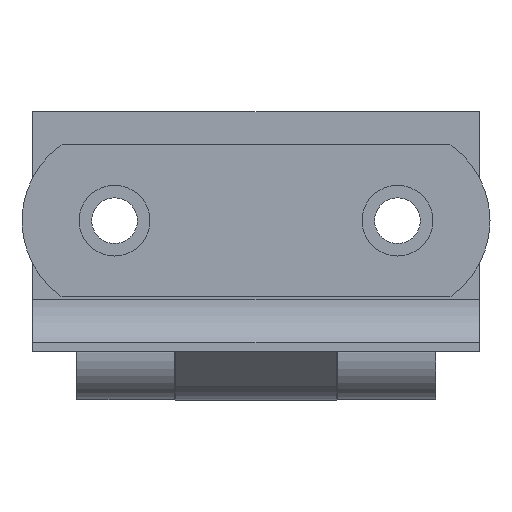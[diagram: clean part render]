
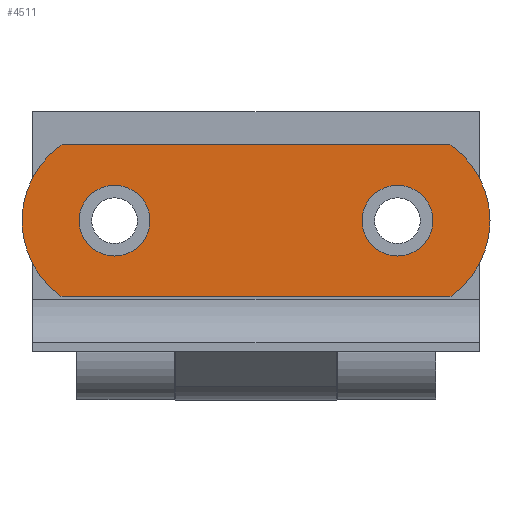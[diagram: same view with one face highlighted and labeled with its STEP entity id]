
A CAD part, left-side view. The second image highlights one B-rep face of the part: STEP entity #4511.
In plain terms, the highlighted planar face has unit normal (-1, 0, 0) as drawn and (0, 0, 1) by its records, which use the part's own axes.
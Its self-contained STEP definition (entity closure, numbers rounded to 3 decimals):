
#222 = CARTESIAN_POINT ( 'NONE',  ( 16.25, 7., 0. ) ) ;
#342 = CIRCLE ( 'NONE', #1406, 8.5 ) ;
#441 = VERTEX_POINT ( 'NONE', #4070 ) ;
#453 = CARTESIAN_POINT ( 'NONE',  ( 21.5, 7., 0. ) ) ;
#463 = VERTEX_POINT ( 'NONE', #3686 ) ;
#535 = EDGE_CURVE ( 'NONE', #1674, #1312, #2896, .T. ) ;
#598 = AXIS2_PLACEMENT_3D ( 'NONE', #1364, #1311, #1265 ) ;
#681 = VERTEX_POINT ( 'NONE', #1379 ) ;
#687 = DIRECTION ( 'NONE',  ( 1., 0., 0. ) ) ;
#713 = DIRECTION ( 'NONE',  ( -1., 0., 0. ) ) ;
#743 = CARTESIAN_POINT ( 'NONE',  ( -17.822, 14., 0. ) ) ;
#744 = LINE ( 'NONE', #743, #1649 ) ;
#755 = AXIS2_PLACEMENT_3D ( 'NONE', #3537, #3540, #3550 ) ;
#881 = EDGE_CURVE ( 'NONE', #2836, #1014, #3741, .T. ) ;
#895 = ORIENTED_EDGE ( 'NONE', *, *, #3302, .F. ) ;
#907 = ORIENTED_EDGE ( 'NONE', *, *, #1907, .F. ) ;
#912 = ORIENTED_EDGE ( 'NONE', *, *, #4434, .T. ) ;
#917 = ORIENTED_EDGE ( 'NONE', *, *, #535, .T. ) ;
#940 = ORIENTED_EDGE ( 'NONE', *, *, #4065, .T. ) ;
#946 = ORIENTED_EDGE ( 'NONE', *, *, #881, .T. ) ;
#952 = ORIENTED_EDGE ( 'NONE', *, *, #1908, .T. ) ;
#970 = ORIENTED_EDGE ( 'NONE', *, *, #3826, .F. ) ;
#973 = ORIENTED_EDGE ( 'NONE', *, *, #2827, .F. ) ;
#1014 = VERTEX_POINT ( 'NONE', #3501 ) ;
#1105 = AXIS2_PLACEMENT_3D ( 'NONE', #1190, #1970, #1174 ) ;
#1174 = DIRECTION ( 'NONE',  ( 1., 0., 0. ) ) ;
#1190 = CARTESIAN_POINT ( 'NONE',  ( -13., 7., 0. ) ) ;
#1219 = DIRECTION ( 'NONE',  ( 0., 0., 1. ) ) ;
#1240 = AXIS2_PLACEMENT_3D ( 'NONE', #4578, #1219, #1892 ) ;
#1265 = DIRECTION ( 'NONE',  ( 1., 0., 0. ) ) ;
#1311 = DIRECTION ( 'NONE',  ( 0., 0., 1. ) ) ;
#1312 = VERTEX_POINT ( 'NONE', #2075 ) ;
#1364 = CARTESIAN_POINT ( 'NONE',  ( 13., 7., 0. ) ) ;
#1379 = CARTESIAN_POINT ( 'NONE',  ( -16.25, 7., 0. ) ) ;
#1406 = AXIS2_PLACEMENT_3D ( 'NONE', #2350, #2383, #2413 ) ;
#1445 = CARTESIAN_POINT ( 'NONE',  ( -13., 7., 0. ) ) ;
#1556 = CIRCLE ( 'NONE', #598, 3.25 ) ;
#1577 = CIRCLE ( 'NONE', #3476, 3.25 ) ;
#1649 = VECTOR ( 'NONE', #713, 1000. ) ;
#1668 = CARTESIAN_POINT ( 'NONE',  ( 13., 7., 0. ) ) ;
#1674 = VERTEX_POINT ( 'NONE', #453 ) ;
#1693 = VECTOR ( 'NONE', #4101, 1000. ) ;
#1699 = CARTESIAN_POINT ( 'NONE',  ( -17.822, 0., 0. ) ) ;
#1702 = CIRCLE ( 'NONE', #755, 3.25 ) ;
#1707 = DIRECTION ( 'NONE',  ( 0., 0., 1. ) ) ;
#1741 = CARTESIAN_POINT ( 'NONE',  ( -13., 7., 0. ) ) ;
#1748 = DIRECTION ( 'NONE',  ( 0., 0., 1. ) ) ;
#1782 = DIRECTION ( 'NONE',  ( 1., 0., 0. ) ) ;
#1814 = DIRECTION ( 'NONE',  ( -1., 0., 0. ) ) ;
#1828 = PLANE ( 'NONE',  #3539 ) ;
#1892 = DIRECTION ( 'NONE',  ( 1., 0., 0. ) ) ;
#1907 = EDGE_CURVE ( 'NONE', #463, #3530, #1556, .T. ) ;
#1908 = EDGE_CURVE ( 'NONE', #441, #2836, #4198, .T. ) ;
#1970 = DIRECTION ( 'NONE',  ( 0., 0., 1. ) ) ;
#2075 = CARTESIAN_POINT ( 'NONE',  ( 17.822, 14., 0. ) ) ;
#2144 = EDGE_LOOP ( 'NONE', ( #973, #970 ) ) ;
#2350 = CARTESIAN_POINT ( 'NONE',  ( 13., 7., 0. ) ) ;
#2383 = DIRECTION ( 'NONE',  ( 0., 0., 1. ) ) ;
#2413 = DIRECTION ( 'NONE',  ( -1., 0., 0. ) ) ;
#2540 = CARTESIAN_POINT ( 'NONE',  ( -9.75, 7., 0. ) ) ;
#2639 = DIRECTION ( 'NONE',  ( 0., 0., 1. ) ) ;
#2706 = AXIS2_PLACEMENT_3D ( 'NONE', #1668, #1707, #1814 ) ;
#2827 = EDGE_CURVE ( 'NONE', #681, #3081, #1577, .T. ) ;
#2836 = VERTEX_POINT ( 'NONE', #1699 ) ;
#2896 = CIRCLE ( 'NONE', #2706, 8.5 ) ;
#3003 = FACE_BOUND ( 'NONE', #4012, .T. ) ;
#3081 = VERTEX_POINT ( 'NONE', #2540 ) ;
#3181 = CIRCLE ( 'NONE', #1240, 3.25 ) ;
#3302 = EDGE_CURVE ( 'NONE', #3530, #463, #1702, .T. ) ;
#3476 = AXIS2_PLACEMENT_3D ( 'NONE', #1741, #1748, #1782 ) ;
#3501 = CARTESIAN_POINT ( 'NONE',  ( 17.822, 0., 0. ) ) ;
#3530 = VERTEX_POINT ( 'NONE', #222 ) ;
#3537 = CARTESIAN_POINT ( 'NONE',  ( 13., 7., 0. ) ) ;
#3539 = AXIS2_PLACEMENT_3D ( 'NONE', #1445, #2639, #687 ) ;
#3540 = DIRECTION ( 'NONE',  ( 0., 0., 1. ) ) ;
#3550 = DIRECTION ( 'NONE',  ( 1., 0., 0. ) ) ;
#3686 = CARTESIAN_POINT ( 'NONE',  ( 9.75, 7., 0. ) ) ;
#3741 = LINE ( 'NONE', #4076, #1693 ) ;
#3826 = EDGE_CURVE ( 'NONE', #3081, #681, #3181, .T. ) ;
#3836 = EDGE_LOOP ( 'NONE', ( #952, #946, #940, #917, #912 ) ) ;
#4012 = EDGE_LOOP ( 'NONE', ( #907, #895 ) ) ;
#4065 = EDGE_CURVE ( 'NONE', #1014, #1674, #342, .T. ) ;
#4070 = CARTESIAN_POINT ( 'NONE',  ( -17.822, 14., 0. ) ) ;
#4076 = CARTESIAN_POINT ( 'NONE',  ( 17.822, 0., 0. ) ) ;
#4101 = DIRECTION ( 'NONE',  ( 1., 0., 0. ) ) ;
#4198 = CIRCLE ( 'NONE', #1105, 8.5 ) ;
#4281 = FACE_BOUND ( 'NONE', #2144, .T. ) ;
#4434 = EDGE_CURVE ( 'NONE', #1312, #441, #744, .T. ) ;
#4511 = ADVANCED_FACE ( 'NONE', ( #4281, #4629, #3003 ), #1828, .T. ) ;
#4578 = CARTESIAN_POINT ( 'NONE',  ( -13., 7., 0. ) ) ;
#4629 = FACE_OUTER_BOUND ( 'NONE', #3836, .T. ) ;
